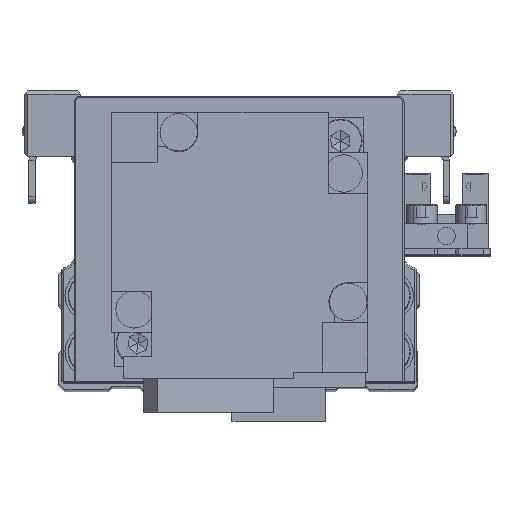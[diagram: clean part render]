
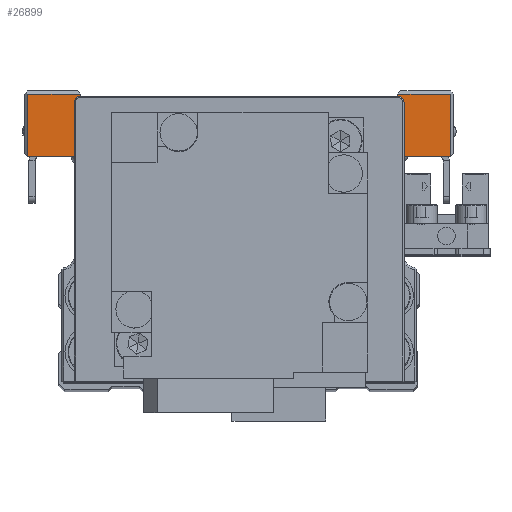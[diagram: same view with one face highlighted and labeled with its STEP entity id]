
A CAD part, top view. The second image highlights one B-rep face of the part: STEP entity #26899.
In plain terms, the highlighted planar face has unit normal (0, 0, 1) as drawn and (1, 0, 0) by its records, which use the part's own axes.
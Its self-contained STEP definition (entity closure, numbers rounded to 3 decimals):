
#50 = CARTESIAN_POINT ( 'NONE',  ( 25.5, 5., 34. ) ) ;
#775 = LINE ( 'NONE', #10963, #2086 ) ;
#867 = EDGE_CURVE ( 'NONE', #27936, #9309, #21627, .T. ) ;
#912 = LINE ( 'NONE', #11100, #14799 ) ;
#1055 = VERTEX_POINT ( 'NONE', #20145 ) ;
#1110 = FACE_OUTER_BOUND ( 'NONE', #30252, .T. ) ;
#1174 = VECTOR ( 'NONE', #15961, 1000. ) ;
#1564 = EDGE_CURVE ( 'NONE', #9115, #32576, #22930, .T. ) ;
#1615 = LINE ( 'NONE', #11802, #12090 ) ;
#1728 = LINE ( 'NONE', #11911, #21169 ) ;
#1814 = VECTOR ( 'NONE', #16074, 1000. ) ;
#2086 = VECTOR ( 'NONE', #21157, 1000. ) ;
#2646 = EDGE_CURVE ( 'NONE', #17769, #31189, #775, .T. ) ;
#3044 = EDGE_CURVE ( 'NONE', #17769, #28946, #31448, .T. ) ;
#3588 = VECTOR ( 'NONE', #17812, 1000. ) ;
#3859 = CARTESIAN_POINT ( 'NONE',  ( 25.5, -5.7, -16.5 ) ) ;
#4593 = ORIENTED_EDGE ( 'NONE', *, *, #13975, .F. ) ;
#5075 = EDGE_CURVE ( 'NONE', #16506, #31789, #8988, .T. ) ;
#5085 = DIRECTION ( 'NONE',  ( 0., 0.707, -0.707 ) ) ;
#5262 = VECTOR ( 'NONE', #5085, 1000. ) ;
#5786 = CARTESIAN_POINT ( 'NONE',  ( 25.5, 10.5, -25.5 ) ) ;
#5803 = CARTESIAN_POINT ( 'NONE',  ( 25.5, 15., 34. ) ) ;
#5893 = CARTESIAN_POINT ( 'NONE',  ( 25.5, 15., 34. ) ) ;
#7074 = EDGE_CURVE ( 'NONE', #16506, #29154, #17774, .T. ) ;
#7305 = VECTOR ( 'NONE', #10233, 1000. ) ;
#7335 = CARTESIAN_POINT ( 'NONE',  ( 25.5, 5., -34.5 ) ) ;
#7633 = CARTESIAN_POINT ( 'NONE',  ( 25.5, -6., 16.2 ) ) ;
#8244 = VERTEX_POINT ( 'NONE', #8697 ) ;
#8413 = DIRECTION ( 'NONE',  ( 0., 1., 0. ) ) ;
#8567 = CARTESIAN_POINT ( 'NONE',  ( 25.5, 10.5, 25.5 ) ) ;
#8697 = CARTESIAN_POINT ( 'NONE',  ( 25.5, 5., -34. ) ) ;
#8790 = DIRECTION ( 'NONE',  ( 0., 0., 1. ) ) ;
#8875 = AXIS2_PLACEMENT_3D ( 'NONE', #21473, #31670, #8790 ) ;
#8964 = DIRECTION ( 'NONE',  ( 0., 0., 1. ) ) ;
#8988 = LINE ( 'NONE', #19165, #30089 ) ;
#9007 = EDGE_CURVE ( 'NONE', #32820, #31789, #30517, .T. ) ;
#9115 = VERTEX_POINT ( 'NONE', #5803 ) ;
#9211 = CARTESIAN_POINT ( 'NONE',  ( 25.5, 10.5, 25.5 ) ) ;
#9309 = VERTEX_POINT ( 'NONE', #24635 ) ;
#9735 = ORIENTED_EDGE ( 'NONE', *, *, #32718, .T. ) ;
#10233 = DIRECTION ( 'NONE',  ( 0., -1., 0. ) ) ;
#10963 = CARTESIAN_POINT ( 'NONE',  ( 25.5, 10.5, -25.5 ) ) ;
#10997 = ORIENTED_EDGE ( 'NONE', *, *, #21855, .T. ) ;
#11100 = CARTESIAN_POINT ( 'NONE',  ( 25.5, 5., -16.5 ) ) ;
#11291 = PLANE ( 'NONE',  #8875 ) ;
#11392 = EDGE_CURVE ( 'NONE', #28946, #9115, #28778, .T. ) ;
#11606 = ORIENTED_EDGE ( 'NONE', *, *, #11392, .T. ) ;
#11802 = CARTESIAN_POINT ( 'NONE',  ( 25.5, 5., 16.5 ) ) ;
#11911 = CARTESIAN_POINT ( 'NONE',  ( 25.5, 5., -34.5 ) ) ;
#11930 = ORIENTED_EDGE ( 'NONE', *, *, #27487, .T. ) ;
#12090 = VECTOR ( 'NONE', #21987, 1000. ) ;
#12334 = VECTOR ( 'NONE', #17519, 1000. ) ;
#12455 = CARTESIAN_POINT ( 'NONE',  ( 25.5, -5.7, 16.5 ) ) ;
#13975 = EDGE_CURVE ( 'NONE', #31118, #29154, #912, .T. ) ;
#14071 = ORIENTED_EDGE ( 'NONE', *, *, #1564, .T. ) ;
#14799 = VECTOR ( 'NONE', #21285, 1000. ) ;
#15853 = ORIENTED_EDGE ( 'NONE', *, *, #5075, .F. ) ;
#15961 = DIRECTION ( 'NONE',  ( 0., 1., 0. ) ) ;
#16074 = DIRECTION ( 'NONE',  ( 0., 0., 1. ) ) ;
#16276 = CARTESIAN_POINT ( 'NONE',  ( 25.5, -6., 16.2 ) ) ;
#16506 = VERTEX_POINT ( 'NONE', #17332 ) ;
#16831 = ORIENTED_EDGE ( 'NONE', *, *, #2646, .F. ) ;
#17154 = EDGE_CURVE ( 'NONE', #31189, #9309, #28656, .T. ) ;
#17332 = CARTESIAN_POINT ( 'NONE',  ( 25.5, -6., -16.2 ) ) ;
#17345 = VECTOR ( 'NONE', #18738, 1000. ) ;
#17519 = DIRECTION ( 'NONE',  ( 0., 0., -1. ) ) ;
#17651 = EDGE_CURVE ( 'NONE', #8244, #27936, #21073, .T. ) ;
#17769 = VERTEX_POINT ( 'NONE', #9211 ) ;
#17774 = LINE ( 'NONE', #27963, #5262 ) ;
#17812 = DIRECTION ( 'NONE',  ( 0., -0.707, -0.707 ) ) ;
#18738 = DIRECTION ( 'NONE',  ( 0., 1., 0. ) ) ;
#19165 = CARTESIAN_POINT ( 'NONE',  ( 25.5, -6., 16.5 ) ) ;
#19521 = VECTOR ( 'NONE', #8964, 1000. ) ;
#19858 = CARTESIAN_POINT ( 'NONE',  ( 25.5, 15., -34. ) ) ;
#20019 = CARTESIAN_POINT ( 'NONE',  ( 25.5, 5., -16.5 ) ) ;
#20145 = CARTESIAN_POINT ( 'NONE',  ( 25.5, 5., 16.5 ) ) ;
#20500 = CARTESIAN_POINT ( 'NONE',  ( 25.5, 10.5, -25.5 ) ) ;
#21073 = LINE ( 'NONE', #31276, #25547 ) ;
#21157 = DIRECTION ( 'NONE',  ( 0., 0., -1. ) ) ;
#21169 = VECTOR ( 'NONE', #22093, 1000. ) ;
#21285 = DIRECTION ( 'NONE',  ( 0., -1., 0. ) ) ;
#21473 = CARTESIAN_POINT ( 'NONE',  ( 25.5, 5., -16.5 ) ) ;
#21627 = LINE ( 'NONE', #31843, #19521 ) ;
#21855 = EDGE_CURVE ( 'NONE', #32576, #1055, #30202, .T. ) ;
#21954 = ORIENTED_EDGE ( 'NONE', *, *, #17154, .F. ) ;
#21987 = DIRECTION ( 'NONE',  ( 0., -1., 0. ) ) ;
#22093 = DIRECTION ( 'NONE',  ( 0., 0., -1. ) ) ;
#22482 = ORIENTED_EDGE ( 'NONE', *, *, #9007, .T. ) ;
#22930 = LINE ( 'NONE', #50, #7305 ) ;
#23089 = CARTESIAN_POINT ( 'NONE',  ( 25.5, 15., 25.5 ) ) ;
#23247 = ORIENTED_EDGE ( 'NONE', *, *, #7074, .T. ) ;
#23676 = CARTESIAN_POINT ( 'NONE',  ( 25.5, 5., 34. ) ) ;
#24635 = CARTESIAN_POINT ( 'NONE',  ( 25.5, 15., -25.5 ) ) ;
#25547 = VECTOR ( 'NONE', #8413, 1000. ) ;
#25594 = ORIENTED_EDGE ( 'NONE', *, *, #17651, .T. ) ;
#26899 = ADVANCED_FACE ( 'NONE', ( #1110 ), #11291, .F. ) ;
#27487 = EDGE_CURVE ( 'NONE', #31118, #8244, #1728, .T. ) ;
#27936 = VERTEX_POINT ( 'NONE', #19858 ) ;
#27963 = CARTESIAN_POINT ( 'NONE',  ( 25.5, -6., -16.2 ) ) ;
#28656 = LINE ( 'NONE', #5786, #1174 ) ;
#28778 = LINE ( 'NONE', #5893, #1814 ) ;
#28946 = VERTEX_POINT ( 'NONE', #23089 ) ;
#29154 = VERTEX_POINT ( 'NONE', #3859 ) ;
#29365 = DIRECTION ( 'NONE',  ( 0., 0., 1. ) ) ;
#29687 = ORIENTED_EDGE ( 'NONE', *, *, #867, .T. ) ;
#30089 = VECTOR ( 'NONE', #29365, 1000. ) ;
#30202 = LINE ( 'NONE', #7335, #12334 ) ;
#30252 = EDGE_LOOP ( 'NONE', ( #31556, #11606, #14071, #10997, #9735, #22482, #15853, #23247, #4593, #11930, #25594, #29687, #21954, #16831 ) ) ;
#30517 = LINE ( 'NONE', #7633, #3588 ) ;
#31118 = VERTEX_POINT ( 'NONE', #20019 ) ;
#31189 = VERTEX_POINT ( 'NONE', #20500 ) ;
#31276 = CARTESIAN_POINT ( 'NONE',  ( 25.5, 5., -34. ) ) ;
#31448 = LINE ( 'NONE', #8567, #17345 ) ;
#31556 = ORIENTED_EDGE ( 'NONE', *, *, #3044, .T. ) ;
#31670 = DIRECTION ( 'NONE',  ( -1., 0., 0. ) ) ;
#31789 = VERTEX_POINT ( 'NONE', #16276 ) ;
#31843 = CARTESIAN_POINT ( 'NONE',  ( 25.5, 15., -25.5 ) ) ;
#32576 = VERTEX_POINT ( 'NONE', #23676 ) ;
#32718 = EDGE_CURVE ( 'NONE', #1055, #32820, #1615, .T. ) ;
#32820 = VERTEX_POINT ( 'NONE', #12455 ) ;
